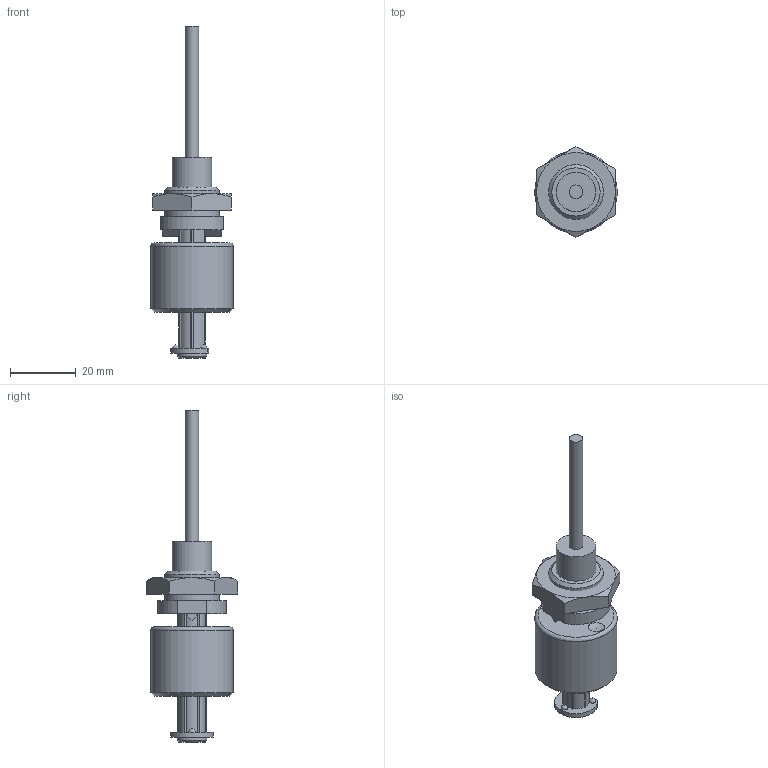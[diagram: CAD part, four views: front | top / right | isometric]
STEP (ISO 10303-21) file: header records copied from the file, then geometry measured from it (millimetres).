
FILE_DESCRIPTION(/* description */ ('Katalogmodell Elobau'),/* implementation_level */ '2;1');
FILE_NAME(/* name */ '2010_0_A.stp',/* time_stamp */ '2014-10-08T10:41:29+02:00',/* author */ ('Elobau GmbH & Co. KG'),/* organization */ ('Elobau GmbH & Co. KG'),/* preprocessor_version */ 'ST-DEVELOPER v15',/* originating_system */ 'SIEMENS PLM Software NX 8.5',/* authorisation */ '');
FILE_SCHEMA (('AUTOMOTIVE_DESIGN { 1 0 10303 214 3 1 1 1 }'));
Length unit declared in the file: millimetre
Products named in the file (1): 2010.0_A
Bounding box: 25.11 x 27.71 x 101 mm (x, y, z)
Volume: 19704.5 mm3; surface area: 7401.3 mm2
Topology: 3 solids, 3 shells, 81 faces, 199 edges, 128 vertices
Faces by surface type: plane 44, cylinder 23, cone 9, sphere 4, bspline 1
Full cylindrical faces by diameter (mm): 4.1 x1, 4.982 x1, 9 x1, 12 x1, 16.662 x1, 25 x1
Entity records: 2378 total; most frequent: CARTESIAN_POINT 436, DIRECTION 396, ORIENTED_EDGE 354, EDGE_CURVE 177, AXIS2_PLACEMENT_3D 150, VERTEX_POINT 121, EDGE_LOOP 99, LINE 96
